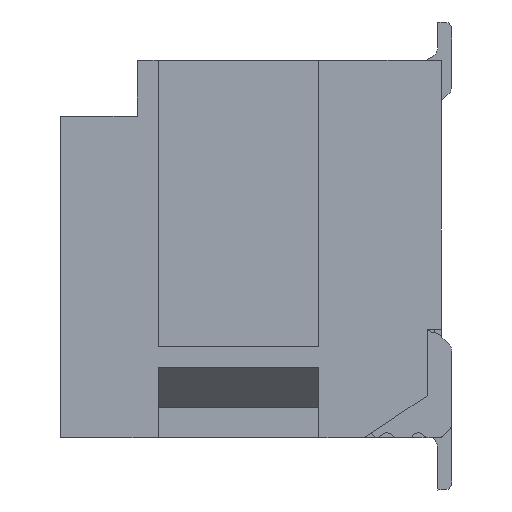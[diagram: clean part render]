
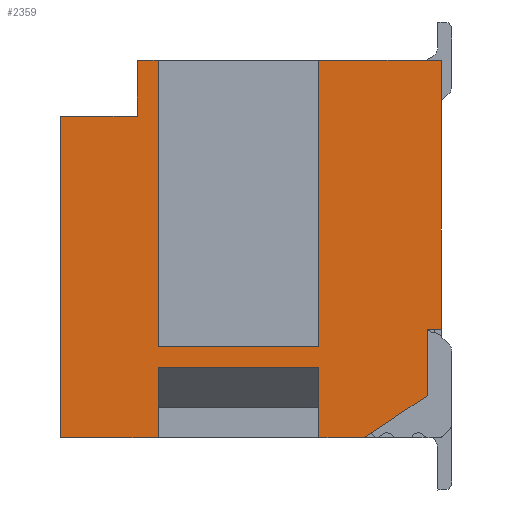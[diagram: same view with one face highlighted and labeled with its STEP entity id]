
A CAD part, left-side view. The second image highlights one B-rep face of the part: STEP entity #2359.
In plain terms, the highlighted planar face has unit normal (-1, 0, 0).
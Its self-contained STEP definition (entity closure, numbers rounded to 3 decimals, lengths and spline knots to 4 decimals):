
#313=PLANE('',#56605);
#2359=ADVANCED_FACE('',(#5855),#313,.F.);
#5855=FACE_OUTER_BOUND('',#8541,.T.);
#8541=EDGE_LOOP('',(#25782,#25783,#25784,#25785,#25786,#25787,#25788,#25789,
#25790,#25791,#25792,#25793,#25794,#25795,#25796,#25797,#25798));
#11419=LINE('',#76759,#18109);
#11424=LINE('',#76770,#18114);
#11428=LINE('',#76779,#18118);
#11438=LINE('',#76799,#18128);
#11444=LINE('',#76811,#18134);
#11532=LINE('',#76993,#18222);
#11579=LINE('',#77083,#18269);
#11585=LINE('',#77095,#18275);
#11586=LINE('',#77097,#18276);
#11637=LINE('',#77199,#18327);
#11639=LINE('',#77203,#18329);
#11640=LINE('',#77204,#18330);
#11641=LINE('',#77206,#18331);
#11642=LINE('',#77207,#18332);
#11643=LINE('',#77208,#18333);
#11644=LINE('',#77210,#18334);
#11645=LINE('',#77212,#18335);
#18109=VECTOR('',#61479,1.);
#18114=VECTOR('',#61486,1.);
#18118=VECTOR('',#61492,1.);
#18128=VECTOR('',#61512,1.);
#18134=VECTOR('',#61522,1.);
#18222=VECTOR('',#61668,1.);
#18269=VECTOR('',#61743,1.);
#18275=VECTOR('',#61753,1.);
#18276=VECTOR('',#61756,1.);
#18327=VECTOR('',#61849,1.);
#18329=VECTOR('',#61853,1.);
#18330=VECTOR('',#61854,1.);
#18331=VECTOR('',#61855,1.);
#18332=VECTOR('',#61856,1.);
#18333=VECTOR('',#61857,1.);
#18334=VECTOR('',#61858,1.);
#18335=VECTOR('',#61859,1.);
#25782=ORIENTED_EDGE('',*,*,#46922,.T.);
#25783=ORIENTED_EDGE('',*,*,#47079,.F.);
#25784=ORIENTED_EDGE('',*,*,#47133,.T.);
#25785=ORIENTED_EDGE('',*,*,#47080,.T.);
#25786=ORIENTED_EDGE('',*,*,#46918,.T.);
#25787=ORIENTED_EDGE('',*,*,#47131,.T.);
#25788=ORIENTED_EDGE('',*,*,#47134,.T.);
#25789=ORIENTED_EDGE('',*,*,#47135,.F.);
#25790=ORIENTED_EDGE('',*,*,#46932,.F.);
#25791=ORIENTED_EDGE('',*,*,#46913,.T.);
#25792=ORIENTED_EDGE('',*,*,#46938,.T.);
#25793=ORIENTED_EDGE('',*,*,#47136,.F.);
#25794=ORIENTED_EDGE('',*,*,#47026,.F.);
#25795=ORIENTED_EDGE('',*,*,#47137,.F.);
#25796=ORIENTED_EDGE('',*,*,#47138,.F.);
#25797=ORIENTED_EDGE('',*,*,#47139,.T.);
#25798=ORIENTED_EDGE('',*,*,#47073,.T.);
#41304=VERTEX_POINT('',#76760);
#41305=VERTEX_POINT('',#76761);
#41308=VERTEX_POINT('',#76769);
#41309=VERTEX_POINT('',#76771);
#41312=VERTEX_POINT('',#76778);
#41313=VERTEX_POINT('',#76780);
#41318=VERTEX_POINT('',#76800);
#41321=VERTEX_POINT('',#76810);
#41386=VERTEX_POINT('',#76992);
#41387=VERTEX_POINT('',#76994);
#41416=VERTEX_POINT('',#77084);
#41419=VERTEX_POINT('',#77094);
#41420=VERTEX_POINT('',#77098);
#41450=VERTEX_POINT('',#77200);
#41451=VERTEX_POINT('',#77205);
#41452=VERTEX_POINT('',#77209);
#41453=VERTEX_POINT('',#77211);
#46913=EDGE_CURVE('',#41304,#41305,#11419,.T.);
#46918=EDGE_CURVE('',#41309,#41308,#11424,.T.);
#46922=EDGE_CURVE('',#41313,#41312,#11428,.T.);
#46932=EDGE_CURVE('',#41304,#41318,#11438,.T.);
#46938=EDGE_CURVE('',#41305,#41321,#11444,.T.);
#47026=EDGE_CURVE('',#41386,#41387,#11532,.T.);
#47073=EDGE_CURVE('',#41416,#41313,#11579,.T.);
#47079=EDGE_CURVE('',#41419,#41312,#11585,.T.);
#47080=EDGE_CURVE('',#41420,#41309,#11586,.T.);
#47131=EDGE_CURVE('',#41308,#41450,#11637,.T.);
#47133=EDGE_CURVE('',#41419,#41420,#11639,.T.);
#47134=EDGE_CURVE('',#41450,#41451,#11640,.T.);
#47135=EDGE_CURVE('',#41318,#41451,#11641,.T.);
#47136=EDGE_CURVE('',#41387,#41321,#11642,.T.);
#47137=EDGE_CURVE('',#41452,#41386,#11643,.T.);
#47138=EDGE_CURVE('',#41453,#41452,#11644,.T.);
#47139=EDGE_CURVE('',#41453,#41416,#11645,.T.);
#56605=AXIS2_PLACEMENT_3D('',#77213,#61860,#61861);
#61479=DIRECTION('',(0.,1.,0.));
#61486=DIRECTION('',(0.,0.,1.));
#61492=DIRECTION('',(0.,-1.,0.));
#61512=DIRECTION('',(0.,0.,1.));
#61522=DIRECTION('',(0.,0.,1.));
#61668=DIRECTION('',(0.,0.,1.));
#61743=DIRECTION('',(0.,0.,1.));
#61753=DIRECTION('',(0.,0.,1.));
#61756=DIRECTION('',(0.,-0.831,0.557));
#61849=DIRECTION('',(0.,-1.,0.));
#61853=DIRECTION('',(0.,-1.,0.));
#61854=DIRECTION('',(0.,0.,1.));
#61855=DIRECTION('',(0.,-1.,0.));
#61856=DIRECTION('',(0.,-1.,0.));
#61857=DIRECTION('',(0.,-1.,0.));
#61858=DIRECTION('',(0.,0.,1.));
#61859=DIRECTION('',(0.,-1.,0.));
#61860=DIRECTION('',(1.,0.,0.));
#61861=DIRECTION('',(0.,0.,-1.));
#76759=CARTESIAN_POINT('',(16.2201,5.35,1.3));
#76760=CARTESIAN_POINT('',(16.2201,5.35,1.3));
#76761=CARTESIAN_POINT('',(16.2201,7.65,1.3));
#76769=CARTESIAN_POINT('',(16.2201,3.8,1.55));
#76770=CARTESIAN_POINT('',(16.2201,3.8,0.6));
#76771=CARTESIAN_POINT('',(16.2201,3.8,0.6));
#76778=CARTESIAN_POINT('',(16.2201,5.35,1.));
#76779=CARTESIAN_POINT('',(16.2201,4.01,1.));
#76780=CARTESIAN_POINT('',(16.2201,7.65,1.));
#76799=CARTESIAN_POINT('',(16.2201,5.35,0.5));
#76800=CARTESIAN_POINT('',(16.2201,5.35,5.4));
#76810=CARTESIAN_POINT('',(16.2201,7.65,5.4));
#76811=CARTESIAN_POINT('',(16.2201,7.65,4.05));
#76992=CARTESIAN_POINT('',(16.2201,7.95,4.6));
#76993=CARTESIAN_POINT('',(16.2201,7.95,4.05));
#76994=CARTESIAN_POINT('',(16.2201,7.95,5.4));
#77083=CARTESIAN_POINT('',(16.2201,7.65,4.05));
#77084=CARTESIAN_POINT('',(16.2201,7.65,0.));
#77094=CARTESIAN_POINT('',(16.2201,5.35,0.));
#77095=CARTESIAN_POINT('',(16.2201,5.35,0.5));
#77097=CARTESIAN_POINT('',(16.2201,4.6954,0.));
#77098=CARTESIAN_POINT('',(16.2201,4.6954,0.));
#77199=CARTESIAN_POINT('',(16.2201,3.8,1.55));
#77200=CARTESIAN_POINT('',(16.2201,3.6,1.55));
#77203=CARTESIAN_POINT('',(16.2201,6.5,0.));
#77204=CARTESIAN_POINT('',(16.2201,3.6,0.));
#77205=CARTESIAN_POINT('',(16.2201,3.6,5.4));
#77206=CARTESIAN_POINT('',(16.2201,4.01,5.4));
#77207=CARTESIAN_POINT('',(16.2201,4.01,5.4));
#77208=CARTESIAN_POINT('',(16.2201,4.01,4.6));
#77209=CARTESIAN_POINT('',(16.2201,9.05,4.6));
#77210=CARTESIAN_POINT('',(16.2201,9.05,4.05));
#77211=CARTESIAN_POINT('',(16.2201,9.05,0.));
#77212=CARTESIAN_POINT('',(16.2201,6.5,0.));
#77213=CARTESIAN_POINT('',(16.2201,4.01,4.05));
